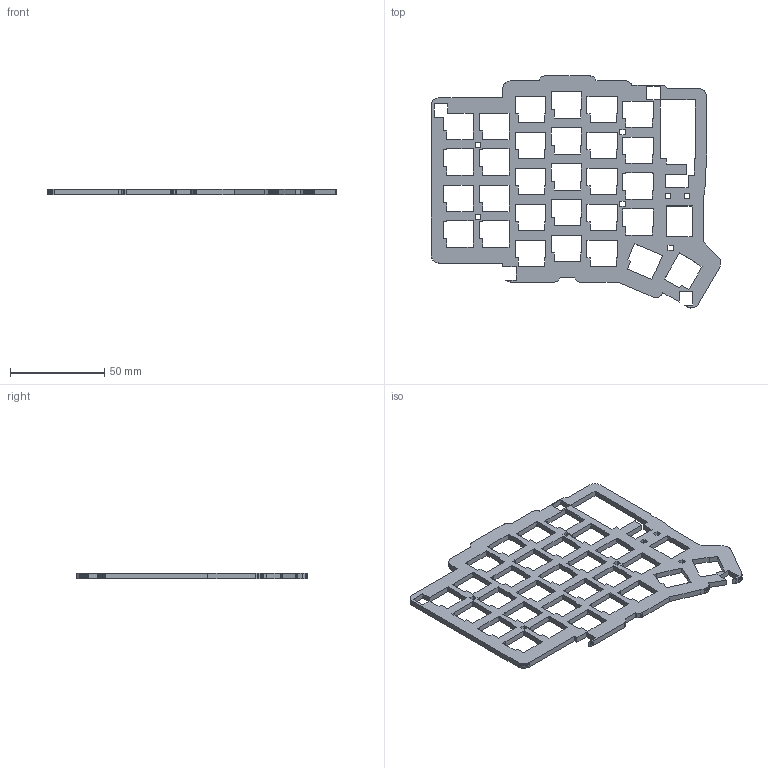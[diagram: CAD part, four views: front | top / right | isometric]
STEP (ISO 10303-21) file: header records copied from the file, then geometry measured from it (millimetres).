
FILE_DESCRIPTION(('Open CASCADE Model'),'2;1');
FILE_NAME('Open CASCADE Shape Model','1979-01-01T00:00:00',('Author'),( 'Open CASCADE'),'Open CASCADE STEP processor 8.0','Open CASCADE 8.0' ,'Unknown');
FILE_SCHEMA(('AUTOMOTIVE_DESIGN { 1 0 10303 214 1 1 1 1 }'));
Length unit declared in the file: millimetre
Products named in the file (1): Open CASCADE STEP translator 8.0 4
Bounding box: 153.76 x 123.03 x 3 mm (x, y, z)
Volume: 23133.5 mm3; surface area: 23341.1 mm2
Topology: 1 solids, 1 shells, 574 faces, 1716 edges, 1144 vertices
Faces by surface type: plane 574
Entity records: 41374 total; most frequent: CARTESIAN_POINT 6867, DIRECTION 6298, LINE 5148, VECTOR 5148, ORIENTED_EDGE 3432, PCURVE 3432, DEFINITIONAL_REPRESENTATION 3432, EDGE_CURVE 1716
